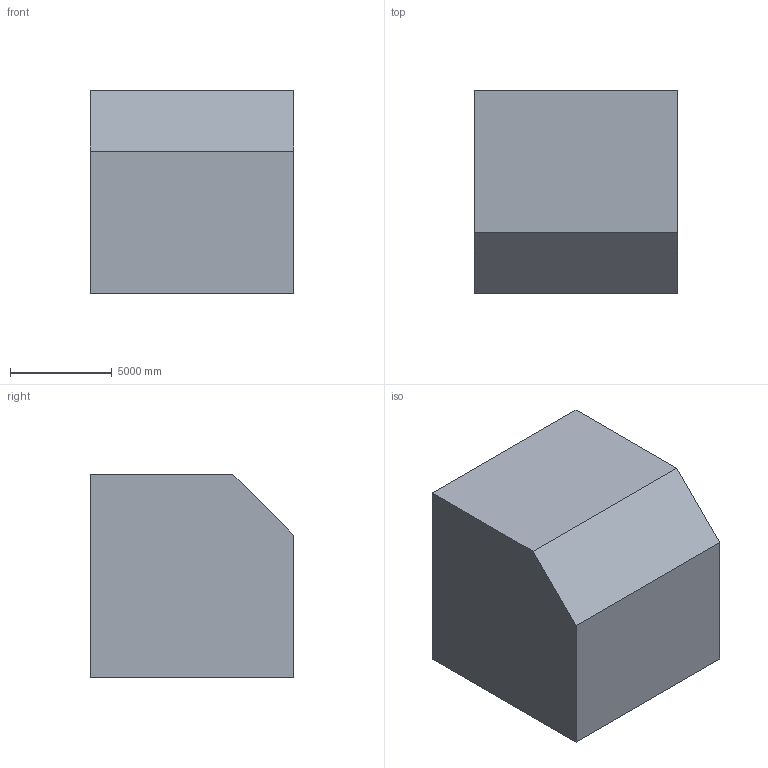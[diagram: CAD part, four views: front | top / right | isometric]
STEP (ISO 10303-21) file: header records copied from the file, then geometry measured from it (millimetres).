
FILE_DESCRIPTION (( 'STEP AP203' ), '1' );
FILE_NAME ('1033.STEP', '2022-08-18T12:29:53', ( 'user' ), ( '' ), 'SwSTEP 2.0', 'SolidWorks 2021', '' );
FILE_SCHEMA (( 'CONFIG_CONTROL_DESIGN' ));
Length unit declared in the file: centimetre
Products named in the file (1): 1033
Bounding box: 10000 x 10000 x 10000 mm (x, y, z)
Volume: 894780727768.8 mm3; surface area: 583586280.7 mm2
Topology: 1 solids, 1 shells, 11 faces, 27 edges, 18 vertices
Faces by surface type: plane 9, cylinder 2
Entity records: 402 total; most frequent: CARTESIAN_POINT 57, DIRECTION 55, ORIENTED_EDGE 54, EDGE_CURVE 27, LINE 23, VECTOR 23, VERTEX_POINT 18, AXIS2_PLACEMENT_3D 16
